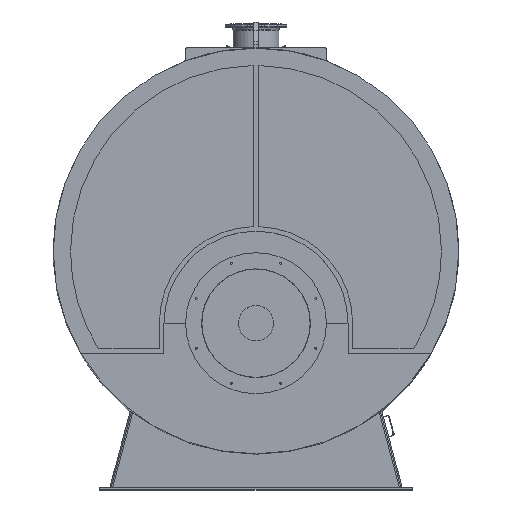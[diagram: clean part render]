
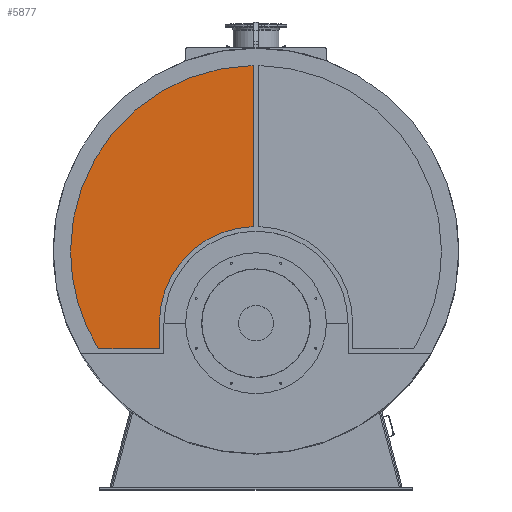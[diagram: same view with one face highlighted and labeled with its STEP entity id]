
A CAD part, top view. The second image highlights one B-rep face of the part: STEP entity #5877.
In plain terms, the highlighted planar face has unit normal (0, 0, 1).
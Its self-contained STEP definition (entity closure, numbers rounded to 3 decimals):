
#5684=CARTESIAN_POINT('',(-15.,1310.332,373.));
#5685=VERTEX_POINT('',#5684);
#5692=CARTESIAN_POINT('',(-15.,179.181,373.));
#5693=VERTEX_POINT('',#5692);
#5694=CARTESIAN_POINT('',(-15.,179.181,373.));
#5695=DIRECTION('',(-0.,1.,-0.));
#5696=VECTOR('',#5695,1131.15);
#5697=LINE('',#5694,#5696);
#5698=EDGE_CURVE('',#5693,#5685,#5697,.T.);
#5714=CARTESIAN_POINT('',(-686.,-512.5,373.));
#5715=VERTEX_POINT('',#5714);
#5716=CARTESIAN_POINT('',(-20.818,173.184,373.));
#5717=VERTEX_POINT('',#5716);
#5718=CARTESIAN_POINT('',(-0.,-512.5,373.));
#5719=DIRECTION('',(-0.,-0.,-1.));
#5720=DIRECTION('',(-1.,0.,0.));
#5721=AXIS2_PLACEMENT_3D('',#5718,#5719,#5720);
#5722=CIRCLE('',#5721,686.);
#5723=EDGE_CURVE('',#5715,#5717,#5722,.T.);
#5748=CARTESIAN_POINT('',(-686.,-688.,373.));
#5749=VERTEX_POINT('',#5748);
#5750=CARTESIAN_POINT('',(-686.,-688.,373.));
#5751=DIRECTION('',(-0.,1.,-0.));
#5752=VECTOR('',#5751,175.5);
#5753=LINE('',#5750,#5752);
#5754=EDGE_CURVE('',#5749,#5715,#5753,.T.);
#5771=CARTESIAN_POINT('',(-692.,-694.,373.));
#5772=VERTEX_POINT('',#5771);
#5779=CARTESIAN_POINT('',(-1115.377,-694.,373.));
#5780=VERTEX_POINT('',#5779);
#5781=CARTESIAN_POINT('',(-1115.377,-694.,373.));
#5782=DIRECTION('',(1.,-0.,-0.));
#5783=VECTOR('',#5782,423.377);
#5784=LINE('',#5781,#5783);
#5785=EDGE_CURVE('',#5780,#5772,#5784,.T.);
#5801=CARTESIAN_POINT('',(-1316.5,-0.,373.));
#5802=VERTEX_POINT('',#5801);
#5810=CARTESIAN_POINT('',(-1120.484,-691.15,373.));
#5811=VERTEX_POINT('',#5810);
#5818=CARTESIAN_POINT('',(-0.,-0.,373.));
#5819=DIRECTION('',(-0.,-0.,1.));
#5820=DIRECTION('',(-1.,0.,0.));
#5821=AXIS2_PLACEMENT_3D('',#5818,#5819,#5820);
#5822=CIRCLE('',#5821,1316.5);
#5823=EDGE_CURVE('',#5802,#5811,#5822,.T.);
#5828=CARTESIAN_POINT('',(-0.,-512.5,373.));
#5829=DIRECTION('',(0.,0.,-1.));
#5830=DIRECTION('',(1.,0.,0.));
#5831=AXIS2_PLACEMENT_3D('',#5828,#5829,#5830);
#5832=PLANE('',#5831);
#5833=ORIENTED_EDGE('',*,*,#5785,.T.);
#5834=CARTESIAN_POINT('',(-692.,-688.,373.));
#5835=DIRECTION('',(0.,0.,1.));
#5836=DIRECTION('',(1.,0.,-0.));
#5837=AXIS2_PLACEMENT_3D('',#5834,#5835,#5836);
#5838=CIRCLE('',#5837,6.);
#5839=EDGE_CURVE('',#5772,#5749,#5838,.T.);
#5840=ORIENTED_EDGE('',*,*,#5839,.T.);
#5841=ORIENTED_EDGE('',*,*,#5754,.T.);
#5842=ORIENTED_EDGE('',*,*,#5723,.T.);
#5843=CARTESIAN_POINT('',(-21.,179.181,373.));
#5844=DIRECTION('',(0.,0.,1.));
#5845=DIRECTION('',(1.,0.,-0.));
#5846=AXIS2_PLACEMENT_3D('',#5843,#5844,#5845);
#5847=CIRCLE('',#5846,6.);
#5848=EDGE_CURVE('',#5717,#5693,#5847,.T.);
#5849=ORIENTED_EDGE('',*,*,#5848,.T.);
#5850=ORIENTED_EDGE('',*,*,#5698,.T.);
#5851=CARTESIAN_POINT('',(-21.096,1316.331,373.));
#5852=VERTEX_POINT('',#5851);
#5853=CARTESIAN_POINT('',(-21.,1310.332,373.));
#5854=DIRECTION('',(0.,0.,1.));
#5855=DIRECTION('',(1.,0.,-0.));
#5856=AXIS2_PLACEMENT_3D('',#5853,#5854,#5855);
#5857=CIRCLE('',#5856,6.);
#5858=EDGE_CURVE('',#5685,#5852,#5857,.T.);
#5859=ORIENTED_EDGE('',*,*,#5858,.T.);
#5860=CARTESIAN_POINT('',(-0.,-0.,373.));
#5861=DIRECTION('',(-0.,-0.,1.));
#5862=DIRECTION('',(-1.,0.,0.));
#5863=AXIS2_PLACEMENT_3D('',#5860,#5861,#5862);
#5864=CIRCLE('',#5863,1316.5);
#5865=EDGE_CURVE('',#5852,#5802,#5864,.T.);
#5866=ORIENTED_EDGE('',*,*,#5865,.T.);
#5867=ORIENTED_EDGE('',*,*,#5823,.T.);
#5868=CARTESIAN_POINT('',(-1115.377,-688.,373.));
#5869=DIRECTION('',(0.,0.,1.));
#5870=DIRECTION('',(1.,0.,-0.));
#5871=AXIS2_PLACEMENT_3D('',#5868,#5869,#5870);
#5872=CIRCLE('',#5871,6.);
#5873=EDGE_CURVE('',#5811,#5780,#5872,.T.);
#5874=ORIENTED_EDGE('',*,*,#5873,.T.);
#5875=EDGE_LOOP('',(#5833,#5840,#5841,#5842,#5849,#5850,#5859,#5866,#5867,#5874));
#5876=FACE_BOUND('',#5875,.T.);
#5877=ADVANCED_FACE('',(#5876),#5832,.F.);
